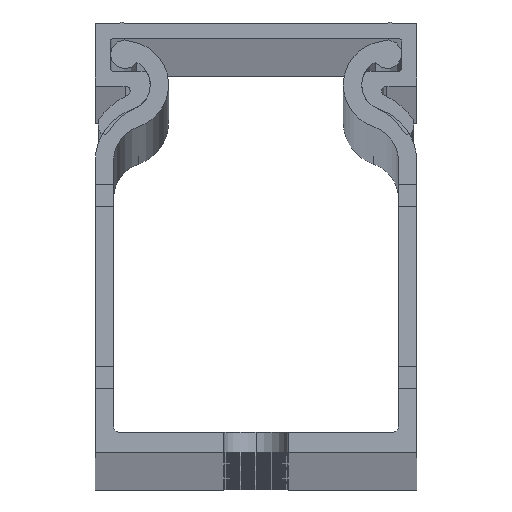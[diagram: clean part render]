
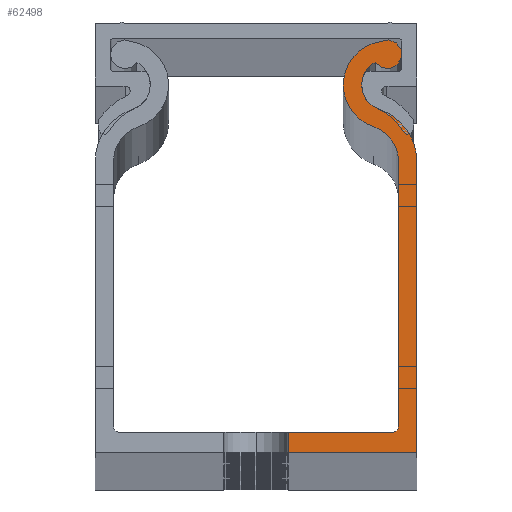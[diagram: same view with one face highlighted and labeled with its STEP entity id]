
A CAD part, top view. The second image highlights one B-rep face of the part: STEP entity #62498.
In plain terms, the highlighted planar face has unit normal (0, 0, 1).
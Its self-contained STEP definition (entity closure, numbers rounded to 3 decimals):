
#247 = DIRECTION ( 'NONE',  ( 0., -1., 0. ) ) ;
#535 = ORIENTED_EDGE ( 'NONE', *, *, #49920, .T. ) ;
#1620 = CARTESIAN_POINT ( 'NONE',  ( 2580.655, 1291.356, 2000. ) ) ;
#4026 = DIRECTION ( 'NONE',  ( 0., 0., 1. ) ) ;
#4357 = VERTEX_POINT ( 'NONE', #42606 ) ;
#6590 = CIRCLE ( 'NONE', #37328, 5.1 ) ;
#7645 = CARTESIAN_POINT ( 'NONE',  ( 2568.407, 1258.956, 2000. ) ) ;
#8311 = EDGE_CURVE ( 'NONE', #42829, #25027, #22262, .T. ) ;
#8664 = CARTESIAN_POINT ( 'NONE',  ( 2580.657, 1294.213, 2000. ) ) ;
#8806 = AXIS2_PLACEMENT_3D ( 'NONE', #1620, #36331, #21624 ) ;
#9594 = EDGE_CURVE ( 'NONE', #48228, #42829, #40386, .T. ) ;
#11830 = CARTESIAN_POINT ( 'NONE',  ( 2581.707, 1259.456, 2000. ) ) ;
#12526 = EDGE_CURVE ( 'NONE', #4357, #57892, #57675, .T. ) ;
#13131 = VERTEX_POINT ( 'NONE', #39801 ) ;
#15005 = AXIS2_PLACEMENT_3D ( 'NONE', #40534, #29714, #64382 ) ;
#15029 = CARTESIAN_POINT ( 'NONE',  ( 2581.207, 1259.456, 2000. ) ) ;
#15646 = EDGE_CURVE ( 'NONE', #53378, #45329, #6590, .T. ) ;
#15764 = DIRECTION ( 'NONE',  ( 0., 0., 1. ) ) ;
#15905 = EDGE_LOOP ( 'NONE', ( #32472, #41785, #535, #59325, #50537, #61051, #63363, #37345, #26287, #55002, #59498, #38213, #33439 ) ) ;
#16459 = AXIS2_PLACEMENT_3D ( 'NONE', #8664, #18886, #38574 ) ;
#17177 = VECTOR ( 'NONE', #42294, 1000. ) ;
#18886 = DIRECTION ( 'NONE',  ( 0., 0., 1. ) ) ;
#19088 = PLANE ( 'NONE',  #30692 ) ;
#19151 = VECTOR ( 'NONE', #30307, 1000. ) ;
#19252 = CARTESIAN_POINT ( 'NONE',  ( 2578.307, 1284.233, 2000. ) ) ;
#20740 = DIRECTION ( 'NONE',  ( 1., 0., 0. ) ) ;
#21624 = DIRECTION ( 'NONE',  ( 1., 0., 0. ) ) ;
#22262 = CIRCLE ( 'NONE', #15005, 3.4 ) ;
#22700 = CARTESIAN_POINT ( 'NONE',  ( 2579.904, 1289.077, 2000. ) ) ;
#23955 = DIRECTION ( 'NONE',  ( 0., 0., -1. ) ) ;
#24437 = CARTESIAN_POINT ( 'NONE',  ( 2581.207, 1258.956, 2000. ) ) ;
#24675 = CARTESIAN_POINT ( 'NONE',  ( 2558.507, 1284.233, 2000. ) ) ;
#25027 = VERTEX_POINT ( 'NONE', #57015 ) ;
#26287 = ORIENTED_EDGE ( 'NONE', *, *, #9594, .T. ) ;
#27170 = CARTESIAN_POINT ( 'NONE',  ( 2580.655, 1291.356, 2000. ) ) ;
#27552 = AXIS2_PLACEMENT_3D ( 'NONE', #40017, #15764, #43858 ) ;
#29714 = DIRECTION ( 'NONE',  ( 0., 0., -1. ) ) ;
#30166 = DIRECTION ( 'NONE',  ( 1., 0., 0. ) ) ;
#30307 = DIRECTION ( 'NONE',  ( 0., 1., 0. ) ) ;
#30692 = AXIS2_PLACEMENT_3D ( 'NONE', #24675, #64084, #53711 ) ;
#32472 = ORIENTED_EDGE ( 'NONE', *, *, #54526, .F. ) ;
#33317 = CARTESIAN_POINT ( 'NONE',  ( 2571.407, 1257.056, 2000. ) ) ;
#33337 = DIRECTION ( 'NONE',  ( 0., 0., -1. ) ) ;
#33439 = ORIENTED_EDGE ( 'NONE', *, *, #46029, .T. ) ;
#33903 = EDGE_CURVE ( 'NONE', #45471, #4357, #34086, .T. ) ;
#34086 = CIRCLE ( 'NONE', #36054, 2.4 ) ;
#34438 = EDGE_CURVE ( 'NONE', #45329, #45471, #42469, .T. ) ;
#35281 = CARTESIAN_POINT ( 'NONE',  ( 2571.407, 1284.233, 2000. ) ) ;
#35321 = AXIS2_PLACEMENT_3D ( 'NONE', #15029, #55245, #30166 ) ;
#35648 = CARTESIAN_POINT ( 'NONE',  ( 2583.407, 1284.196, 2000. ) ) ;
#36054 = AXIS2_PLACEMENT_3D ( 'NONE', #57561, #33337, #37853 ) ;
#36258 = CARTESIAN_POINT ( 'NONE',  ( 2579.372, 1287.462, 2000. ) ) ;
#36278 = VERTEX_POINT ( 'NONE', #24437 ) ;
#36305 = CARTESIAN_POINT ( 'NONE',  ( 2568.407, 1257.056, 2000. ) ) ;
#36331 = DIRECTION ( 'NONE',  ( 0., 0., 1. ) ) ;
#37328 = AXIS2_PLACEMENT_3D ( 'NONE', #19252, #4026, #44078 ) ;
#37345 = ORIENTED_EDGE ( 'NONE', *, *, #40604, .T. ) ;
#37461 = LINE ( 'NONE', #36305, #60701 ) ;
#37853 = DIRECTION ( 'NONE',  ( 1., 0., 0. ) ) ;
#38213 = ORIENTED_EDGE ( 'NONE', *, *, #47094, .T. ) ;
#38574 = DIRECTION ( 'NONE',  ( 1., 0., 0. ) ) ;
#39601 = LINE ( 'NONE', #7645, #17177 ) ;
#39801 = CARTESIAN_POINT ( 'NONE',  ( 2583.407, 1257.056, 2000. ) ) ;
#40017 = CARTESIAN_POINT ( 'NONE',  ( 2580.655, 1291.356, 2000. ) ) ;
#40275 = CARTESIAN_POINT ( 'NONE',  ( 2583.407, 1257.056, 2000. ) ) ;
#40386 = CIRCLE ( 'NONE', #8806, 4.1 ) ;
#40419 = FACE_OUTER_BOUND ( 'NONE', #15905, .T. ) ;
#40534 = CARTESIAN_POINT ( 'NONE',  ( 2578.307, 1284.233, 2000. ) ) ;
#40604 = EDGE_CURVE ( 'NONE', #57892, #48228, #44024, .T. ) ;
#41785 = ORIENTED_EDGE ( 'NONE', *, *, #57193, .T. ) ;
#41892 = DIRECTION ( 'NONE',  ( 1., 0., 0. ) ) ;
#42294 = DIRECTION ( 'NONE',  ( -1., 0., 0. ) ) ;
#42299 = AXIS2_PLACEMENT_3D ( 'NONE', #27170, #23955, #41892 ) ;
#42333 = VERTEX_POINT ( 'NONE', #11830 ) ;
#42469 = CIRCLE ( 'NONE', #42299, 2.4 ) ;
#42606 = CARTESIAN_POINT ( 'NONE',  ( 2579.527, 1293.474, 2000. ) ) ;
#42829 = VERTEX_POINT ( 'NONE', #36258 ) ;
#43858 = DIRECTION ( 'NONE',  ( 1., 0., 0. ) ) ;
#44024 = CIRCLE ( 'NONE', #27552, 4.1 ) ;
#44043 = CARTESIAN_POINT ( 'NONE',  ( 2581.707, 1284.203, 2000. ) ) ;
#44078 = DIRECTION ( 'NONE',  ( 1., 0., 0. ) ) ;
#45329 = VERTEX_POINT ( 'NONE', #22700 ) ;
#45471 = VERTEX_POINT ( 'NONE', #62965 ) ;
#45996 = CARTESIAN_POINT ( 'NONE',  ( 2576.555, 1291.356, 2000. ) ) ;
#46029 = EDGE_CURVE ( 'NONE', #36278, #47780, #39601, .T. ) ;
#47094 = EDGE_CURVE ( 'NONE', #42333, #36278, #63811, .T. ) ;
#47780 = VERTEX_POINT ( 'NONE', #60200 ) ;
#48228 = VERTEX_POINT ( 'NONE', #45996 ) ;
#49920 = EDGE_CURVE ( 'NONE', #13131, #53378, #52893, .T. ) ;
#49940 = VECTOR ( 'NONE', #247, 1000. ) ;
#50171 = DIRECTION ( 'NONE',  ( 0., 1., 0. ) ) ;
#50537 = ORIENTED_EDGE ( 'NONE', *, *, #34438, .T. ) ;
#51859 = CARTESIAN_POINT ( 'NONE',  ( 2580.029, 1295.408, 2000. ) ) ;
#52126 = VECTOR ( 'NONE', #50171, 1000. ) ;
#52893 = LINE ( 'NONE', #40275, #52126 ) ;
#53378 = VERTEX_POINT ( 'NONE', #35648 ) ;
#53711 = DIRECTION ( 'NONE',  ( 1., 0., 0. ) ) ;
#54526 = EDGE_CURVE ( 'NONE', #59194, #47780, #60994, .T. ) ;
#55002 = ORIENTED_EDGE ( 'NONE', *, *, #8311, .T. ) ;
#55245 = DIRECTION ( 'NONE',  ( 0., 0., -1. ) ) ;
#55956 = EDGE_CURVE ( 'NONE', #25027, #42333, #63185, .T. ) ;
#57015 = CARTESIAN_POINT ( 'NONE',  ( 2581.707, 1284.203, 2000. ) ) ;
#57193 = EDGE_CURVE ( 'NONE', #59194, #13131, #37461, .T. ) ;
#57561 = CARTESIAN_POINT ( 'NONE',  ( 2580.655, 1291.356, 2000. ) ) ;
#57675 = CIRCLE ( 'NONE', #16459, 1.35 ) ;
#57892 = VERTEX_POINT ( 'NONE', #51859 ) ;
#59194 = VERTEX_POINT ( 'NONE', #33317 ) ;
#59325 = ORIENTED_EDGE ( 'NONE', *, *, #15646, .T. ) ;
#59498 = ORIENTED_EDGE ( 'NONE', *, *, #55956, .T. ) ;
#60200 = CARTESIAN_POINT ( 'NONE',  ( 2571.407, 1258.956, 2000. ) ) ;
#60701 = VECTOR ( 'NONE', #20740, 1000. ) ;
#60994 = LINE ( 'NONE', #35281, #19151 ) ;
#61051 = ORIENTED_EDGE ( 'NONE', *, *, #33903, .T. ) ;
#62498 = ADVANCED_FACE ( 'NONE', ( #40419 ), #19088, .T. ) ;
#62965 = CARTESIAN_POINT ( 'NONE',  ( 2578.255, 1291.356, 2000. ) ) ;
#63185 = LINE ( 'NONE', #44043, #49940 ) ;
#63363 = ORIENTED_EDGE ( 'NONE', *, *, #12526, .T. ) ;
#63811 = CIRCLE ( 'NONE', #35321, 0.5 ) ;
#64084 = DIRECTION ( 'NONE',  ( 0., 0., 1. ) ) ;
#64382 = DIRECTION ( 'NONE',  ( 1., 0., 0. ) ) ;
